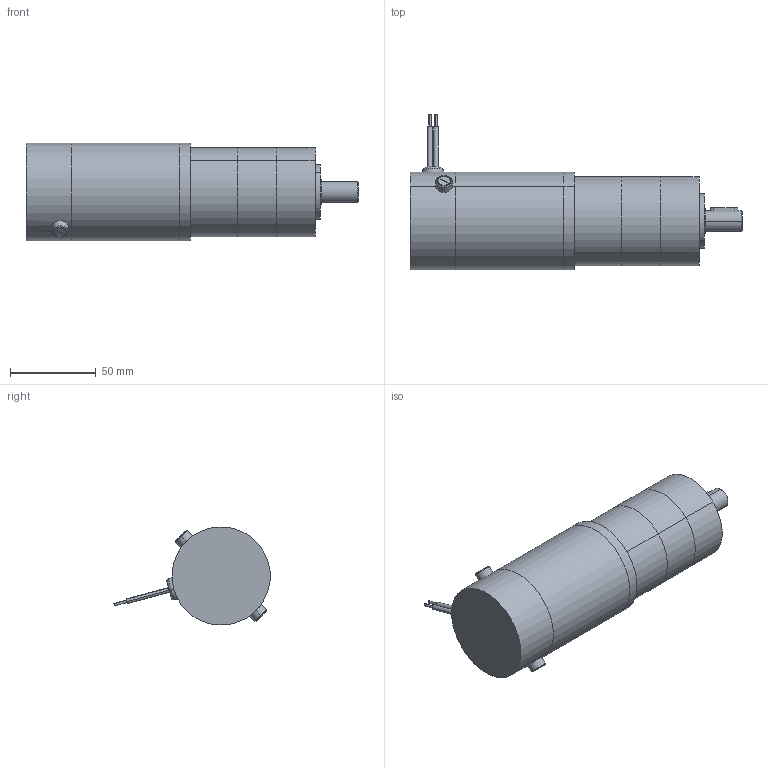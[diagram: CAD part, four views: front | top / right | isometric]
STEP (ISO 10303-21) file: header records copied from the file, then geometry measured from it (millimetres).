
FILE_DESCRIPTION (( 'STEP AP203' ), '1' );
FILE_NAME ('d22376gp1.step', '2018-12-07T19:16:18', ( '' ), ( '' ), 'SwSTEP 2.0', 'SolidWorks 2017', '' );
FILE_SCHEMA (( 'CONFIG_CONTROL_DESIGN' ));
Length unit declared in the file: inch
Products named in the file (1): d22376gp1
Bounding box: 193.15 x 90.76 x 56.93 mm (x, y, z)
Volume: 400823.7 mm3; surface area: 74470 mm2
Topology: 17 solids, 17 shells, 324 faces, 689 edges, 428 vertices
Faces by surface type: cylinder 136, plane 133, cone 45, torus 6, sphere 4
Entity records: 8991 total; most frequent: CARTESIAN_POINT 1686, DIRECTION 1656, ORIENTED_EDGE 1346, EDGE_CURVE 673, AXIS2_PLACEMENT_3D 668, VERTEX_POINT 428, EDGE_LOOP 389, CIRCLE 343
